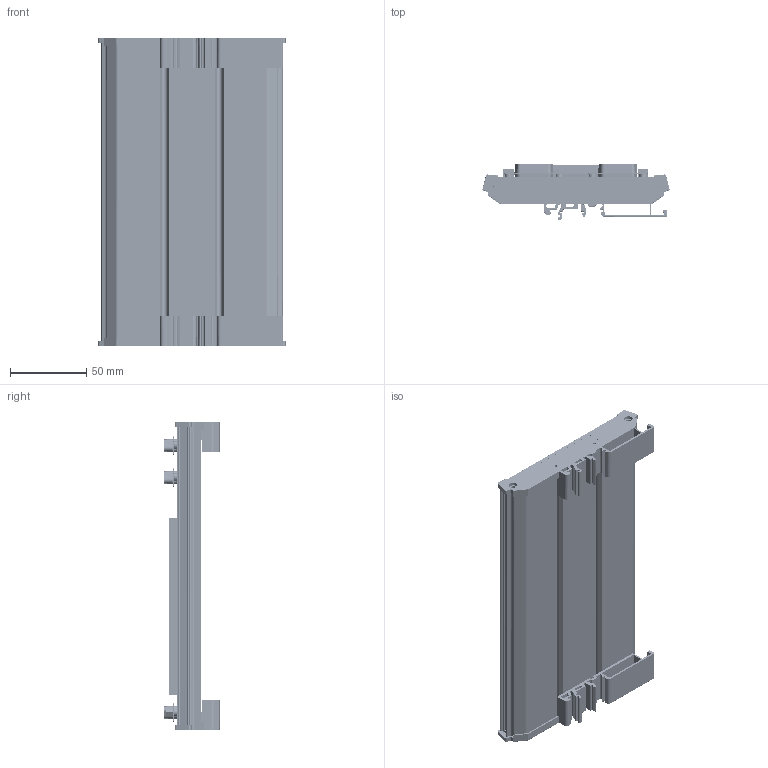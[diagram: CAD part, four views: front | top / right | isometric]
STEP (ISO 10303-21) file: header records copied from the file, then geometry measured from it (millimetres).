
FILE_DESCRIPTION (( 'STEP AP203' ), '1' );
FILE_NAME ('3Dͼֽ P62-34 V1.0.STEP', '2022-09-30T03:28:21', ( 'Microsoft' ), ( 'Microsoft' ), 'SwSTEP 2.0', 'SolidWorks 2020', '' );
FILE_SCHEMA (( 'CONFIG_CONTROL_DESIGN' ));
Length unit declared in the file: millimetre
Products named in the file (4): P62-34 耀郪殤; P62-34V1.1; DB26母直PCB下铆（新）; 3Dͼֽ P62-34 V1.0
Assembly tree (6 placements, depth 2):
  3Dͼֽ P62-34 V1.0
    P62-34 耀郪殤
    P62-34V1.1
    DB26母直PCB下铆（新）  x4
Bounding box: 122.8 x 36.12 x 202.2 mm (x, y, z)
Volume: 124836 mm3; surface area: 199027.4 mm2
Topology: 5 solids, 475 shells, 7352 faces, 21383 edges, 14631 vertices
Faces by surface type: plane 4688, cylinder 1533, bspline 956, cone 173, torus 2
Entity records: 299583 total; most frequent: CARTESIAN_POINT 123667, ORIENTED_EDGE 36388, DIRECTION 31257, EDGE_CURVE 20434, VECTOR 14981, LINE 14981, VERTEX_POINT 14031, AXIS2_PLACEMENT_3D 8138
